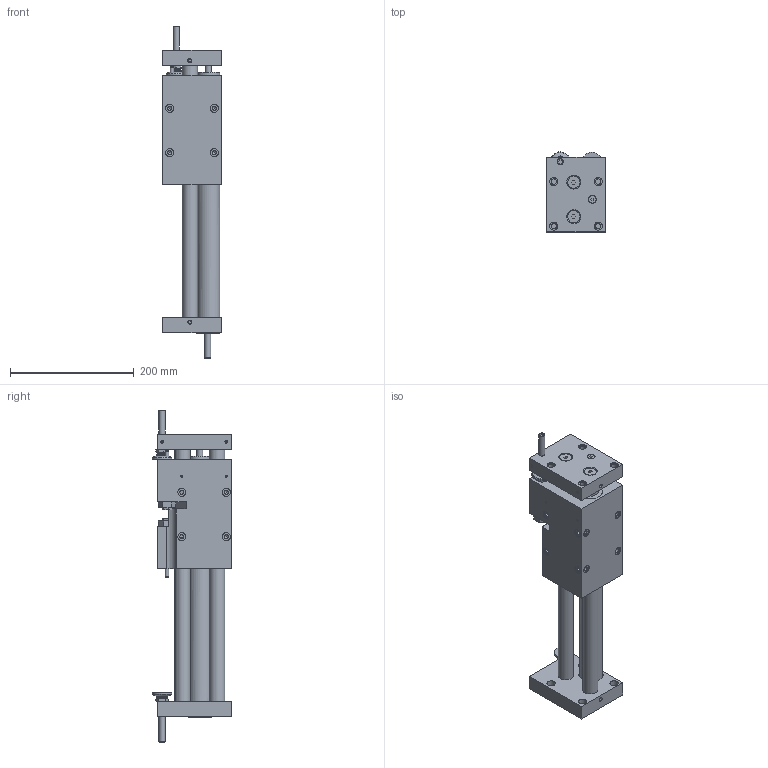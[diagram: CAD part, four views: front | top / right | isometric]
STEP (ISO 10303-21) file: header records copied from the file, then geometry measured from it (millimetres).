
FILE_DESCRIPTION(/* description */ (''),/* implementation_level */ '2;1');
FILE_NAME(/* name */ 'N:\Zeichnungen\Lineareinheiten\Lineareinheit LES-9(1055)\Lineareinheit LES-9_3d\Neutrale CAD-Formate\Lineareinheit LES-9-S-200-H-0-0-P.stp',/* time_stamp */ '2016-03-11T15:29:42+01:00',/* author */ ('gose'),/* organization */ (''),/* preprocessor_version */ 'ST-DEVELOPER v16.1',/* originating_system */ 'Autodesk Inventor 2016',/* authorisation */ '');
FILE_SCHEMA (('AUTOMOTIVE_DESIGN { 1 0 10303 214 3 1 1 }'));
Length unit declared in the file: centimetre
Products named in the file (3): Führung komplett LES-9-200; Führungskopf komplett LES-9-200; Lineareinheit LES-9-S-200-H-0-0-P
Assembly tree (2 placements, depth 2):
  Lineareinheit LES-9-S-200-H-0-0-P
    Führung komplett LES-9-200
    Führungskopf komplett LES-9-200
Bounding box: 95 x 128.99 x 537 mm (x, y, z)
Volume: 2494509.2 mm3; surface area: 385642.7 mm2
Topology: 3 solids, 3 shells, 538 faces, 1168 edges, 743 vertices
Faces by surface type: plane 220, cylinder 192, cone 119, torus 7
Full cylindrical faces by diameter (mm): 2.459 x10, 3.1 x4, 3.242 x8, 3.5 x1, 4 x2, 4.5 x2, 4.917 x5, 6 x4, 6.4 x4, 6.647 x20, 8 x2, 8.5 x8, 8.566 x2, 8.8 x2, 8.917 x1, 10 x5, 11 x2, 12 x1, 13 x22, 13.5 x8, 14.286 x2, 15 x1, 17 x2, 17.05 x1, 17.15 x1, 18.376 x4, 20 x3, 22 x4, 25 x11, 25.5 x4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
Entity records: 13761 total; most frequent: CARTESIAN_POINT 2723, DIRECTION 2269, ORIENTED_EDGE 1648, AXIS2_PLACEMENT_3D 998, EDGE_LOOP 958, EDGE_CURVE 824, VERTEX_POINT 660, FACE_OUTER_BOUND 538
